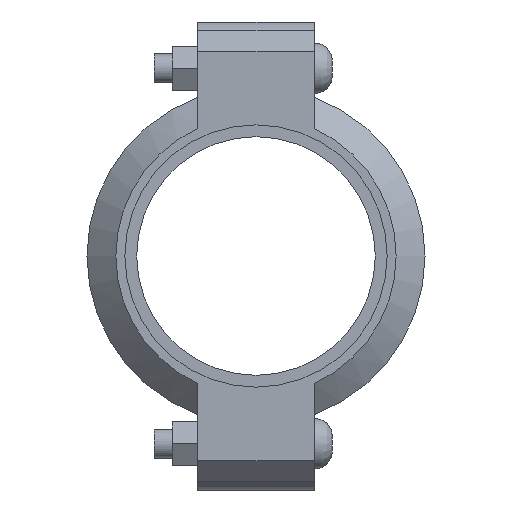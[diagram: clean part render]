
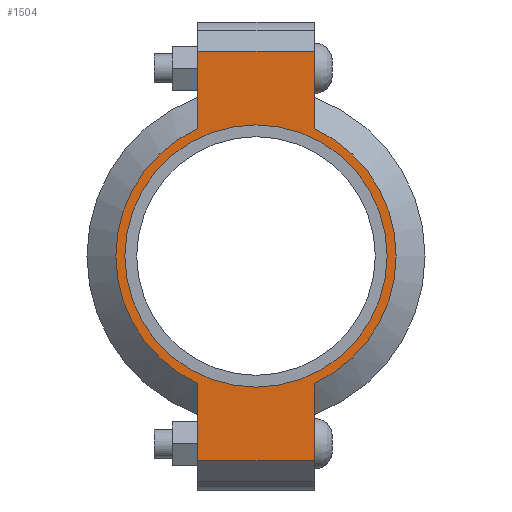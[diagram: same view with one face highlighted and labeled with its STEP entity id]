
A CAD part, left-side view. The second image highlights one B-rep face of the part: STEP entity #1504.
In plain terms, the highlighted planar face has unit normal (-1, 0, 0) as drawn and (0, 0, 1) by its records, which use the part's own axes.
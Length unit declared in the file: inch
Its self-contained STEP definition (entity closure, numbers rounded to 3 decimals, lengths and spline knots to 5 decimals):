
#184=LINE('',#2591,#275);
#192=LINE('',#2627,#283);
#199=LINE('',#2648,#290);
#208=LINE('',#2680,#299);
#209=LINE('',#2684,#300);
#210=LINE('',#2686,#301);
#275=VECTOR('',#2089,0.3937);
#283=VECTOR('',#2105,0.3937);
#290=VECTOR('',#2124,0.3937);
#299=VECTOR('',#2149,0.3937);
#300=VECTOR('',#2154,0.3937);
#301=VECTOR('',#2155,0.3937);
#353=FACE_BOUND('',#513,.T.);
#417=FACE_OUTER_BOUND('',#512,.T.);
#512=EDGE_LOOP('',(#1239,#1240,#1241,#1242,#1243,#1244,#1245,#1246));
#513=EDGE_LOOP('',(#1247));
#610=CIRCLE('',#1747,2.405);
#611=CIRCLE('',#1748,2.405);
#612=CIRCLE('',#1749,2.25);
#715=VERTEX_POINT('',#2588);
#716=VERTEX_POINT('',#2590);
#727=VERTEX_POINT('',#2622);
#728=VERTEX_POINT('',#2626);
#735=VERTEX_POINT('',#2645);
#736=VERTEX_POINT('',#2647);
#746=VERTEX_POINT('',#2683);
#747=VERTEX_POINT('',#2685);
#748=VERTEX_POINT('',#2688);
#879=EDGE_CURVE('',#716,#715,#184,.T.);
#893=EDGE_CURVE('',#728,#727,#192,.T.);
#903=EDGE_CURVE('',#736,#735,#199,.T.);
#918=EDGE_CURVE('',#728,#715,#208,.T.);
#919=EDGE_CURVE('',#727,#736,#610,.T.);
#920=EDGE_CURVE('',#746,#735,#209,.T.);
#921=EDGE_CURVE('',#746,#747,#210,.T.);
#922=EDGE_CURVE('',#747,#716,#611,.T.);
#923=EDGE_CURVE('',#748,#748,#612,.T.);
#1239=ORIENTED_EDGE('',*,*,#918,.F.);
#1240=ORIENTED_EDGE('',*,*,#893,.T.);
#1241=ORIENTED_EDGE('',*,*,#919,.T.);
#1242=ORIENTED_EDGE('',*,*,#903,.T.);
#1243=ORIENTED_EDGE('',*,*,#920,.F.);
#1244=ORIENTED_EDGE('',*,*,#921,.T.);
#1245=ORIENTED_EDGE('',*,*,#922,.T.);
#1246=ORIENTED_EDGE('',*,*,#879,.T.);
#1247=ORIENTED_EDGE('',*,*,#923,.T.);
#1358=PLANE('',#1746);
#1504=ADVANCED_FACE('',(#417,#353),#1358,.T.);
#1746=AXIS2_PLACEMENT_3D('',#2681,#2150,#2151);
#1747=AXIS2_PLACEMENT_3D('',#2682,#2152,#2153);
#1748=AXIS2_PLACEMENT_3D('',#2687,#2156,#2157);
#1749=AXIS2_PLACEMENT_3D('',#2689,#2158,#2159);
#2089=DIRECTION('',(-1.,0.,0.));
#2105=DIRECTION('',(1.,0.,0.));
#2124=DIRECTION('',(1.,0.,0.));
#2149=DIRECTION('',(0.,1.,0.));
#2150=DIRECTION('center_axis',(0.,0.,1.));
#2151=DIRECTION('ref_axis',(1.,0.,0.));
#2152=DIRECTION('center_axis',(0.,0.,1.));
#2153=DIRECTION('ref_axis',(-1.,0.,0.));
#2154=DIRECTION('',(0.,-1.,0.));
#2155=DIRECTION('',(-1.,0.,0.));
#2156=DIRECTION('center_axis',(0.,0.,1.));
#2157=DIRECTION('ref_axis',(-1.,0.,0.));
#2158=DIRECTION('center_axis',(0.,0.,-1.));
#2159=DIRECTION('ref_axis',(-1.,0.,0.));
#2588=CARTESIAN_POINT('',(-3.515,1.,1.065));
#2590=CARTESIAN_POINT('',(-2.18724,1.,1.065));
#2591=CARTESIAN_POINT('',(-4.015,1.,1.065));
#2622=CARTESIAN_POINT('',(-2.18724,-1.,1.065));
#2626=CARTESIAN_POINT('',(-3.515,-1.,1.065));
#2627=CARTESIAN_POINT('',(4.015,-1.,1.065));
#2645=CARTESIAN_POINT('',(3.515,-1.,1.065));
#2647=CARTESIAN_POINT('',(2.18724,-1.,1.065));
#2648=CARTESIAN_POINT('',(4.015,-1.,1.065));
#2680=CARTESIAN_POINT('',(-3.515,0.5,1.065));
#2681=CARTESIAN_POINT('Origin',(0.,0.,1.065));
#2682=CARTESIAN_POINT('Origin',(0.,0.,1.065));
#2683=CARTESIAN_POINT('',(3.515,1.,1.065));
#2684=CARTESIAN_POINT('',(3.515,-0.5,1.065));
#2685=CARTESIAN_POINT('',(2.18724,1.,1.065));
#2686=CARTESIAN_POINT('',(-4.015,1.,1.065));
#2687=CARTESIAN_POINT('Origin',(0.,0.,1.065));
#2688=CARTESIAN_POINT('',(2.25,0.,1.065));
#2689=CARTESIAN_POINT('Origin',(0.,0.,1.065));
